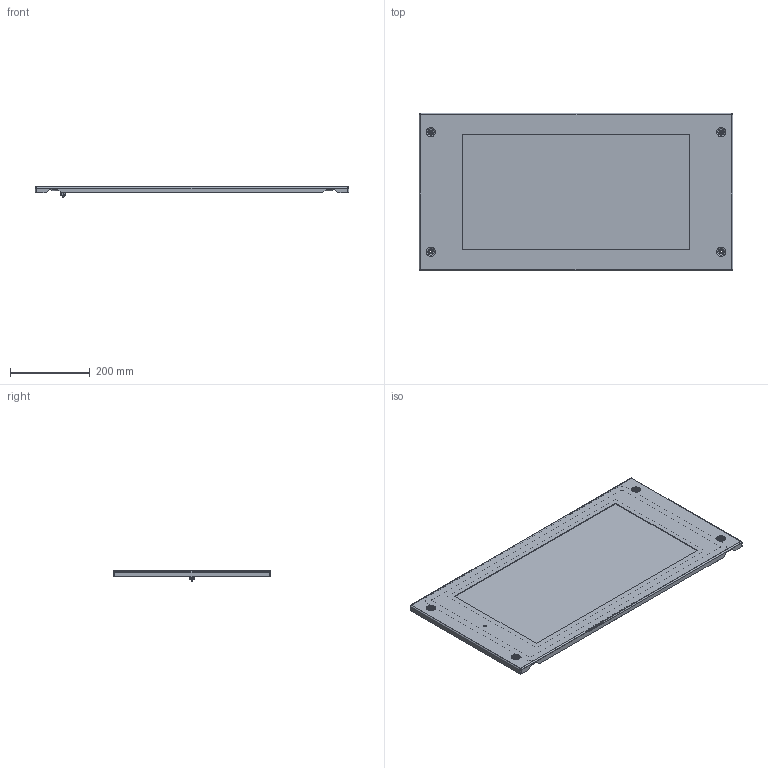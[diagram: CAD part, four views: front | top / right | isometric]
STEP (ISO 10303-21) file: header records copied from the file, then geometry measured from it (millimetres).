
FILE_DESCRIPTION (( 'STEP AP203' ), '1' );
FILE_NAME ('DP 40.80 V Ïàíåëü ñåêöèîííàÿ îáçîðíàÿ.STEP', '2014-06-30T08:29:28', ( 'System' ), ( '' ), 'SwSTEP 2.0', 'SolidWorks 2012', '' );
FILE_SCHEMA (( 'CONFIG_CONTROL_DESIGN' ));
Length unit declared in the file: millimetre
Products named in the file (1): DP 40.80 V Ïàíåëü ñåêöèîííàÿ îáçîðíàÿ
Bounding box: 785 x 394 x 26 mm (x, y, z)
Volume: 1303525.1 mm3; surface area: 775918.7 mm2
Topology: 4 solids, 4 shells, 175 faces, 398 edges, 238 vertices
Faces by surface type: plane 61, cylinder 42, torus 40, cone 24, sphere 8
Entity records: 4953 total; most frequent: DIRECTION 948, CARTESIAN_POINT 804, ORIENTED_EDGE 780, EDGE_CURVE 390, AXIS2_PLACEMENT_3D 382, VERTEX_POINT 238, CIRCLE 206, EDGE_LOOP 200
